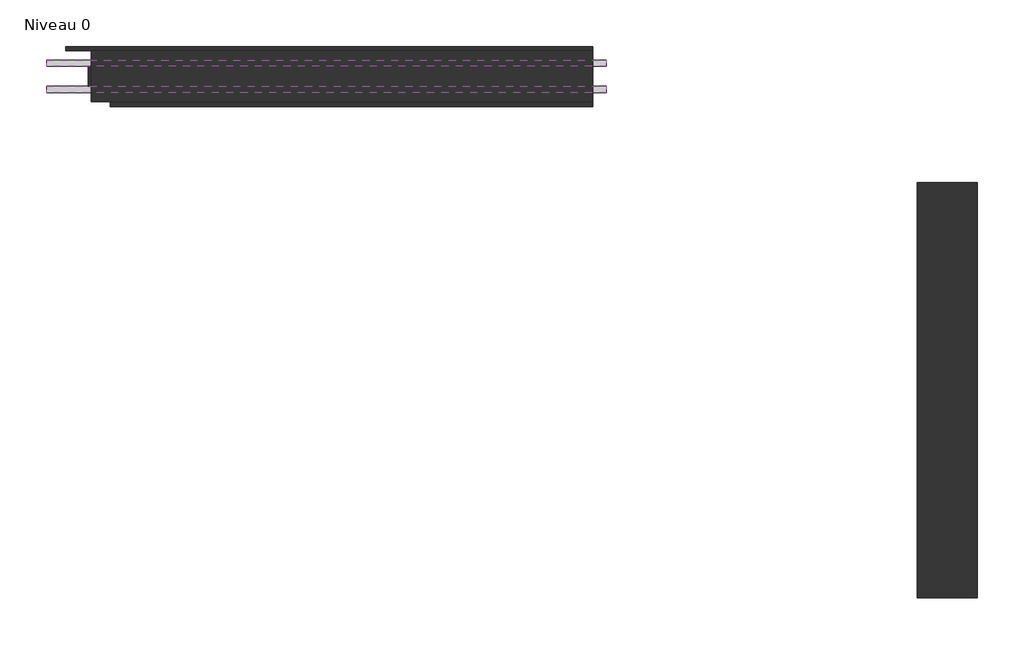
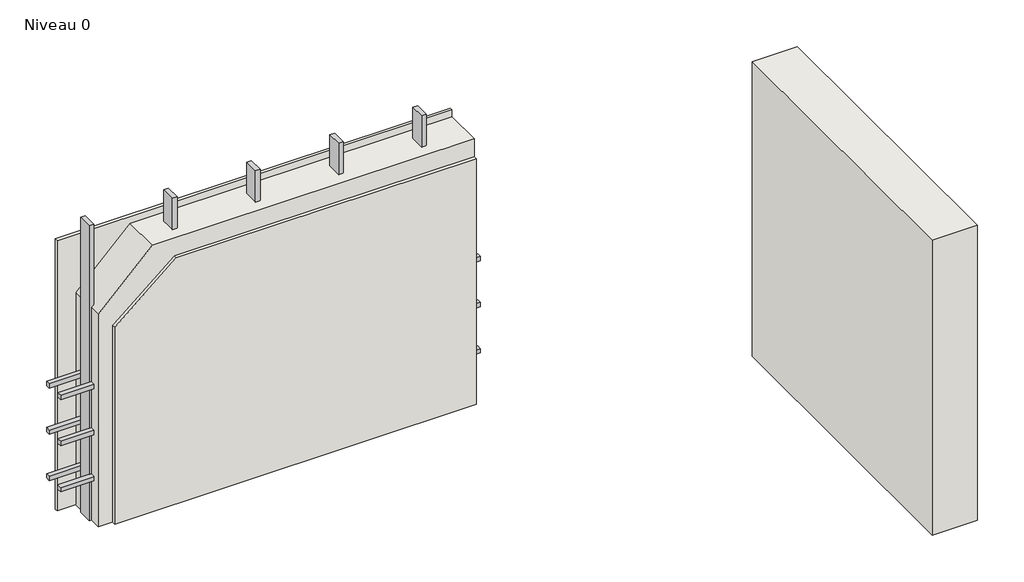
# One storey: 6 beams, 5 columns, 4 walls.
"""IFC4 building model written with IfcOpenShell, lengths in millimetres."""

from ifc_helpers import new_model, si_unit, frame, origin, origin_with_axes, place, context, project, spatial, polyline, outline, extrude, transform, mapped, element, save
from components import beam_45x45_aacaedf5

model = new_model("IFC4")

# Units and contexts
model_context = context("Model", 3, world=origin())
ifc_project = project(units=[si_unit("LENGTHUNIT", "METRE", prefix="MILLI")], contexts=[model_context])

# Site, building, storey
site = spatial("IfcSite", under=ifc_project)
building = spatial("IfcBuilding", under=site)
storey = spatial("IfcBuildingStorey", under=building, Name="Niveau 0", Elevation=0.0)

# Beams
placement = place(None, origin())
beam_45x45_shape = beam_45x45_aacaedf5(model_context)
element("IfcBeam", 1, ObjectType="Poutre - Bois d'oeuvre : 45x45", at=placement, inside=storey, context=model_context, shape_type="MappedRepresentation", body=[
    mapped(beam_45x45_shape, transform((-4235.3588823, -1183.2584766, 447.5), x_axis=(1.0, 0.0, 0.0), y_axis=(0.0, 1.0, 0.0), z_axis=(0.0, 0.0, 1.0))),
])
element("IfcBeam", 2, ObjectType="Poutre - Bois d'oeuvre : 45x45", at=placement, inside=storey, context=model_context, shape_type="MappedRepresentation", body=[
    mapped(beam_45x45_shape, transform((-4235.3588823, -1183.2584766, 917.5), x_axis=(1.0, 0.0, 0.0), y_axis=(0.0, 1.0, 0.0), z_axis=(0.0, 0.0, 1.0))),
])
element("IfcBeam", 3, ObjectType="Poutre - Bois d'oeuvre : 45x45", at=placement, inside=storey, context=model_context, shape_type="MappedRepresentation", body=[
    mapped(beam_45x45_shape, transform((-4235.3588823, -1183.2584766, 1387.5), x_axis=(1.0, 0.0, 0.0), y_axis=(0.0, 1.0, 0.0), z_axis=(0.0, 0.0, 1.0))),
])
element("IfcBeam", 4, ObjectType="Poutre - Bois d'oeuvre : 45x45", at=placement, inside=storey, context=model_context, shape_type="MappedRepresentation", body=[
    mapped(beam_45x45_shape, transform((-4235.3588823, -993.2584766, 447.5), x_axis=(1.0, 0.0, 0.0), y_axis=(0.0, 1.0, 0.0), z_axis=(0.0, 0.0, 1.0))),
])
element("IfcBeam", 5, ObjectType="Poutre - Bois d'oeuvre : 45x45", at=placement, inside=storey, context=model_context, shape_type="MappedRepresentation", body=[
    mapped(beam_45x45_shape, transform((-4235.3588823, -993.2584766, 1387.5), x_axis=(1.0, 0.0, 0.0), y_axis=(0.0, 1.0, 0.0), z_axis=(0.0, 0.0, 1.0))),
])
element("IfcBeam", 6, ObjectType="Poutre - Bois d'oeuvre : 45x45", at=placement, inside=storey, context=model_context, shape_type="MappedRepresentation", body=[
    mapped(beam_45x45_shape, transform((-4235.3588823, -993.2584766, 917.5), x_axis=(1.0, 0.0, 0.0), y_axis=(0.0, 1.0, 0.0), z_axis=(0.0, 0.0, 1.0))),
])

# Columns
element("IfcColumn", 7, ObjectType="Bois - Bois de construction de dimensions courantes : 45x145", at=placement, inside=storey, context=model_context, shape_type="SweptSolid", body=[
    extrude(outline(polyline([(-5909.3766725, -1015.7584766), (-5909.3766725, -1160.7584766), (-5954.3766725, -1160.7584766), (-5954.3766725, -1015.7584766), (-5909.3766725, -1015.7584766)])), origin_with_axes(), (0.0, 0.0, 1.0), 3000.0),
])
element("IfcColumn", 8, ObjectType="Bois - Bois de construction de dimensions courantes : 45x145", at=placement, inside=storey, context=model_context, shape_type="SweptSolid", body=[
    extrude(outline(polyline([(-5109.3766725, -1015.7584766), (-5109.3766725, -1160.7584766), (-5154.3766725, -1160.7584766), (-5154.3766725, -1015.7584766), (-5109.3766725, -1015.7584766)])), origin_with_axes(), (0.0, 0.0, 1.0), 3000.0),
])
element("IfcColumn", 9, ObjectType="Bois - Bois de construction de dimensions courantes : 45x145", at=placement, inside=storey, context=model_context, shape_type="SweptSolid", body=[
    extrude(outline(polyline([(-4309.3766725, -1015.7584766), (-4309.3766725, -1160.7584766), (-4354.3766725, -1160.7584766), (-4354.3766725, -1015.7584766), (-4309.3766725, -1015.7584766)])), origin_with_axes(), (0.0, 0.0, 1.0), 3000.0),
])
element("IfcColumn", 10, ObjectType="Bois - Bois de construction de dimensions courantes : 45x145", at=placement, inside=storey, context=model_context, shape_type="SweptSolid", body=[
    extrude(outline(polyline([(-3509.3766725, -1015.7584766), (-3509.3766725, -1160.7584766), (-3554.3766725, -1160.7584766), (-3554.3766725, -1015.7584766), (-3509.3766725, -1015.7584766)])), origin_with_axes(), (0.0, 0.0, 1.0), 3000.0),
])
element("IfcColumn", 11, ObjectType="Bois - Bois de construction de dimensions courantes : 45x145", at=placement, inside=storey, context=model_context, shape_type="SweptSolid", body=[
    extrude(outline(polyline([(-2709.3766725, -1015.7584766), (-2709.3766725, -1160.7584766), (-2754.3766725, -1160.7584766), (-2754.3766725, -1015.7584766), (-2709.3766725, -1015.7584766)])), origin_with_axes(), (0.0, 0.0, 1.0), 3000.0),
])

# Walls
element("IfcWall", 12, ObjectType="Botte de paille", at=placement, inside=storey, context=model_context, shape_type="SweptSolid", body=[
    extrude(outline(polyline([(0.0, -5933.4638423), (0.0, -2315.0543614), (2680.0, -2315.0543614), (2680.0, -5413.4638423), (2160.0, -5933.4638423), (0.0, -5933.4638423)])), frame((0.0, -1273.2584766, 0.0), z_axis=(0.0, 1.0, 0.0), x_axis=(0.0, 0.0, 1.0)), (0.0, 0.0, 1.0), 370.0),
])
element("IfcWall", 13, ObjectType="Enduit à la chaux", at=placement, inside=storey, context=model_context, shape_type="SweptSolid", body=[
    extrude(outline(polyline([(-2315.0543614, -903.2584766), (-6115.0543614, -903.2584766), (-6115.0543614, -873.2584766), (-2315.0543614, -873.2584766), (-2315.0543614, -903.2584766)])), origin_with_axes(), (0.0, 0.0, 1.0), 2750.0),
])
element("IfcWall", 14, ObjectType="Enduit terre", at=placement, inside=storey, context=model_context, shape_type="SweptSolid", body=[
    extrude(outline(polyline([(0.0, -5795.3588823), (0.0, -2315.0543614), (2500.0, -2315.0543614), (2500.0, -5199.482086), (2000.0, -5795.3588823), (0.0, -5795.3588823)])), frame((0.0, -1308.2584766, 0.0), z_axis=(0.0, 1.0, 0.0), x_axis=(0.0, 0.0, 1.0)), (0.0, 0.0, 1.0), 35.0),
])
element("IfcWall", 15, ObjectType="SBW_05", at=placement, inside=storey, context=model_context, shape_type="SweptSolid", body=[
    extrude(outline(polyline([(26.6937453, -4855.5228881), (26.6937453, -1855.5228881), (461.6937453, -1855.5228881), (461.6937453, -4855.5228881), (26.6937453, -4855.5228881)])), origin_with_axes(), (0.0, 0.0, 1.0), 3000.0),
])

save(model, "model.ifc")
